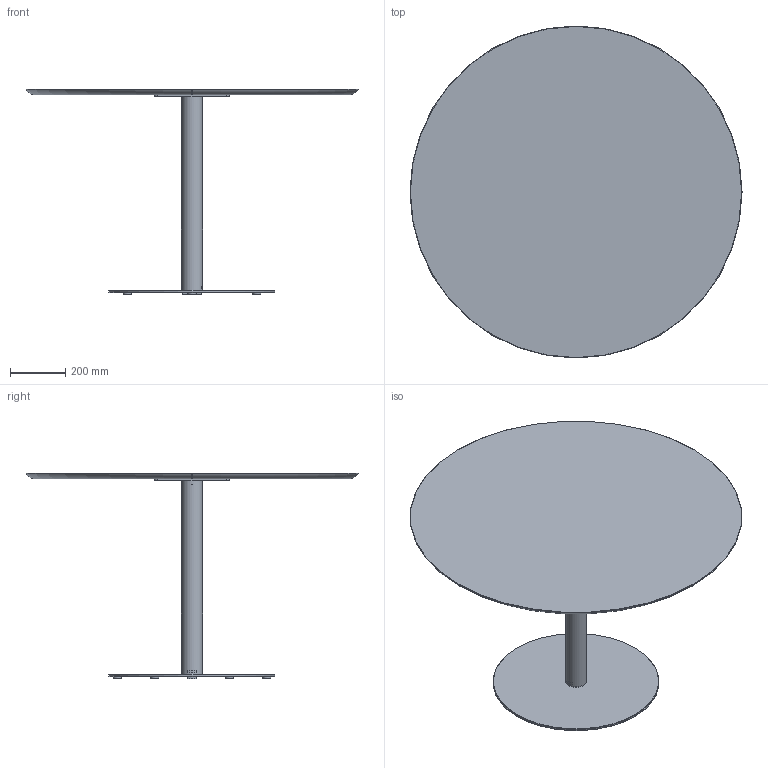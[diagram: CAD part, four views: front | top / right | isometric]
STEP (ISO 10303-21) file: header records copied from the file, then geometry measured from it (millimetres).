
FILE_DESCRIPTION( ('This file contains a STEP AP42 implementation' ,'as created by ZW3D STEP Interface translator.') ,'2;1' );
FILE_NAME( 'Henri - B_Rond - F1 - M3 - 1200 x 1200 x 750.stp' ,'24 912.151531', (''), ('ZWCAD Software Co.'), 'Version 1.0', 'ZW3D to STEP translator', '' );
FILE_SCHEMA(('AUTOMOTIVE_DESIGN { 1 0 10303 214 1 1 1 1 }'));
Length unit declared in the file: millimetre
Products named in the file (14): 0; PIED BISTROT PARAMETRIQUE_; COLONNE ACIER Ø76 V.02_; TUB-D076-02_; PLA-R76B-01_; CROIX ACIER 370 V.02_; CRX-X370-02_; SOCLE ACIER C Ø600 V.02_; SCL-D600-02_; PLA-R30A-01_; PLA-R30A-01; WUERTH 0276063020 Euro-screw 6.3x2 Verzinkt_; PLATEAU BISTROT PARAMETRIQUE_; insert_m6_13_
Assembly tree (24 placements, depth 3):
  0
  PIED BISTROT PARAMETRIQUE_
    COLONNE ACIER Ø76 V.02_
      TUB-D076-02_
      PLA-R76B-01_  x2
    CROIX ACIER 370 V.02_
      CRX-X370-02_
    SOCLE ACIER C Ø600 V.02_
      SCL-D600-02_
      PLA-R30A-01_
      PLA-R30A-01  x5
    WUERTH 0276063020 Euro-screw 6.3x2 Verzinkt_
    PLATEAU BISTROT PARAMETRIQUE_
      insert_m6_13_  x8
Bounding box: 1200 x 1200 x 744 mm (x, y, z)
Volume: 25260288 mm3; surface area: 3397548.9 mm2
Topology: 21 solids, 21 shells, 524 faces, 1273 edges, 802 vertices
Faces by surface type: plane 250, bspline 121, cylinder 103, cone 45, torus 5
Full cylindrical faces by diameter (mm): 4.88 x1, 6 x8, 6.3 x1, 8 x47, 12 x2, 14 x2, 30 x6, 72 x1, 76 x1, 600 x1
Entity records: 11742 total; most frequent: CARTESIAN_POINT 3302, ORIENTED_EDGE 1526, DIRECTION 1432, EDGE_CURVE 763, VERTEX_POINT 490, AXIS2_PLACEMENT_3D 482, VECTOR 468, LINE 468
